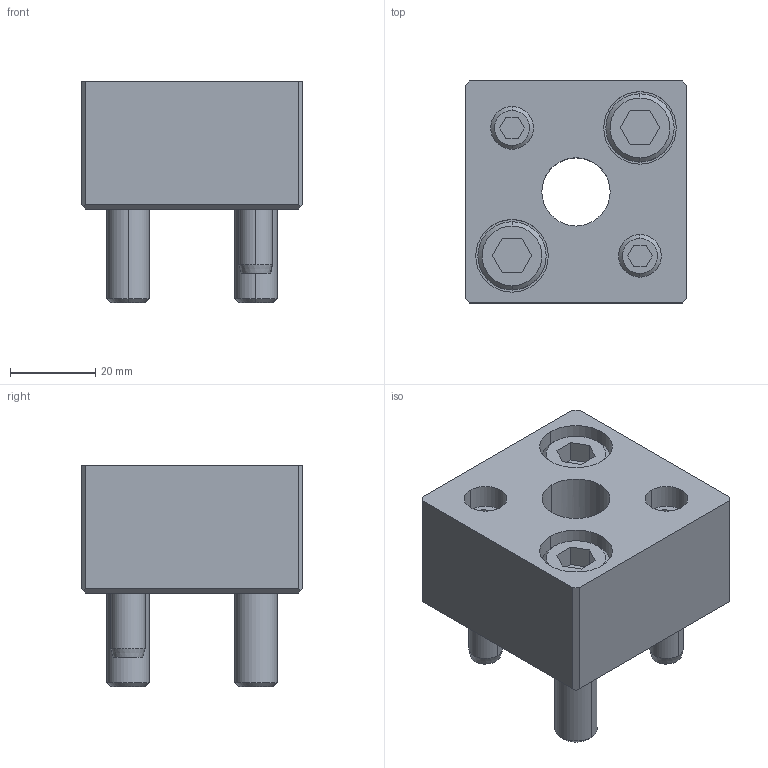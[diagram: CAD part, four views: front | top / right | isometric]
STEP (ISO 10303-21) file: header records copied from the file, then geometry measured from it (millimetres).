
FILE_DESCRIPTION(/* description */ (''),/* implementation_level */ '2;1');
FILE_NAME(/* name */ '3d_mpdr16_04592_r00.stp',/* time_stamp */ '2011-01-10T14:13:29+09:00',/* author */ ('MISUMI'),/* organization */ (''),/* preprocessor_version */ 'ST-DEVELOPER v11',/* originating_system */ 'UGS - NX 5.0',/* authorisation */ '');
FILE_SCHEMA (('CONFIG_CONTROL_DESIGN'));
Length unit declared in the file: millimetre
Products named in the file (1): 3d_mpdr16_04592_r00
Bounding box: 52 x 52 x 52 mm (x, y, z)
Volume: 75297.6 mm3; surface area: 23750.6 mm2
Topology: 7 solids, 7 shells, 139 faces, 310 edges, 199 vertices
Faces by surface type: plane 68, cylinder 45, cone 26
Entity records: 3984 total; most frequent: DIRECTION 700, CARTESIAN_POINT 696, ORIENTED_EDGE 620, EDGE_CURVE 310, AXIS2_PLACEMENT_3D 257, VERTEX_POINT 199, LINE 186, VECTOR 186
